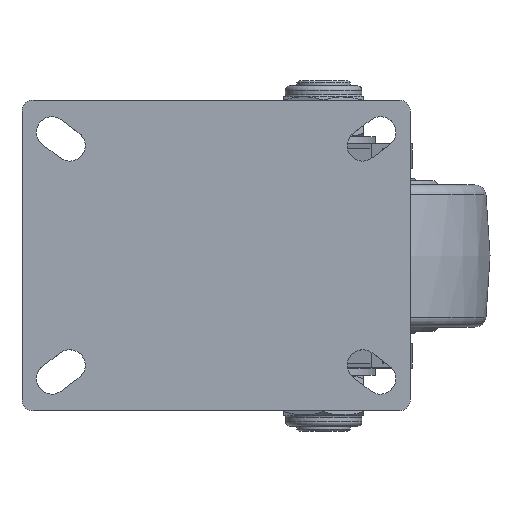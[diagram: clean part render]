
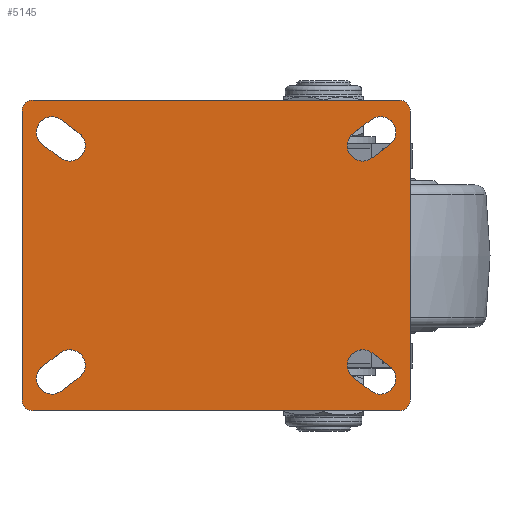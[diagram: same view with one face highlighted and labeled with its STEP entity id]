
A CAD part, top view. The second image highlights one B-rep face of the part: STEP entity #5145.
In plain terms, the highlighted planar face has unit normal (0, 0, 1).
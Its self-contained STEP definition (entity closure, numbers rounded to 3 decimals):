
#3832=CARTESIAN_POINT('',(90.716,258.53,175.));
#3833=VERTEX_POINT('',#3832);
#3834=CARTESIAN_POINT('',(99.116,247.33,175.));
#3835=VERTEX_POINT('',#3834);
#3836=CARTESIAN_POINT('',(94.916,252.93,175.));
#3837=DIRECTION('',(0.0,0.0,1.0));
#3838=DIRECTION('',(1.0,0.0,0.0));
#3839=AXIS2_PLACEMENT_3D('',#3836,#3837,#3838);
#3840=CIRCLE('',#3839,7.);
#3841=EDGE_CURVE('',#3833,#3835,#3840,.T.);
#3885=CARTESIAN_POINT('',(107.116,253.33,175.));
#3886=VERTEX_POINT('',#3885);
#3893=CARTESIAN_POINT('',(98.716,264.53,175.));
#3894=VERTEX_POINT('',#3893);
#3895=CARTESIAN_POINT('',(102.916,258.93,175.));
#3896=DIRECTION('',(0.0,0.0,1.0));
#3897=DIRECTION('',(1.0,0.0,0.0));
#3898=AXIS2_PLACEMENT_3D('',#3895,#3896,#3897);
#3899=CIRCLE('',#3898,7.);
#3900=EDGE_CURVE('',#3886,#3894,#3899,.T.);
#3927=CARTESIAN_POINT('',(98.716,142.33,175.));
#3928=VERTEX_POINT('',#3927);
#3935=CARTESIAN_POINT('',(107.116,153.53,175.));
#3936=VERTEX_POINT('',#3935);
#3937=CARTESIAN_POINT('',(102.916,147.93,175.));
#3938=DIRECTION('',(0.0,0.0,1.0));
#3939=DIRECTION('',(1.0,0.0,0.0));
#3940=AXIS2_PLACEMENT_3D('',#3937,#3938,#3939);
#3941=CIRCLE('',#3940,7.);
#3942=EDGE_CURVE('',#3928,#3936,#3941,.T.);
#3958=CARTESIAN_POINT('',(99.116,159.53,175.));
#3959=VERTEX_POINT('',#3958);
#3960=CARTESIAN_POINT('',(90.716,148.33,175.));
#3961=VERTEX_POINT('',#3960);
#3962=CARTESIAN_POINT('',(94.916,153.93,175.));
#3963=DIRECTION('',(0.0,0.0,1.0));
#3964=DIRECTION('',(1.0,0.0,0.0));
#3965=AXIS2_PLACEMENT_3D('',#3962,#3963,#3964);
#3966=CIRCLE('',#3965,7.);
#3967=EDGE_CURVE('',#3959,#3961,#3966,.T.);
#4011=CARTESIAN_POINT('',(-32.884,148.33,175.));
#4012=VERTEX_POINT('',#4011);
#4019=CARTESIAN_POINT('',(-41.284,159.53,175.));
#4020=VERTEX_POINT('',#4019);
#4021=CARTESIAN_POINT('',(-37.084,153.93,175.));
#4022=DIRECTION('',(0.0,0.0,1.0));
#4023=DIRECTION('',(1.0,0.0,0.0));
#4024=AXIS2_PLACEMENT_3D('',#4021,#4022,#4023);
#4025=CIRCLE('',#4024,7.);
#4026=EDGE_CURVE('',#4012,#4020,#4025,.T.);
#4042=CARTESIAN_POINT('',(-49.284,153.53,175.));
#4043=VERTEX_POINT('',#4042);
#4044=CARTESIAN_POINT('',(-40.884,142.33,175.));
#4045=VERTEX_POINT('',#4044);
#4046=CARTESIAN_POINT('',(-45.084,147.93,175.));
#4047=DIRECTION('',(0.0,0.0,1.0));
#4048=DIRECTION('',(1.0,0.0,0.0));
#4049=AXIS2_PLACEMENT_3D('',#4046,#4047,#4048);
#4050=CIRCLE('',#4049,7.);
#4051=EDGE_CURVE('',#4043,#4045,#4050,.T.);
#4084=CARTESIAN_POINT('',(-40.884,264.53,175.));
#4085=VERTEX_POINT('',#4084);
#4086=CARTESIAN_POINT('',(-49.284,253.33,175.));
#4087=VERTEX_POINT('',#4086);
#4088=CARTESIAN_POINT('',(-45.084,258.93,175.));
#4089=DIRECTION('',(0.0,0.0,1.0));
#4090=DIRECTION('',(1.0,0.0,0.0));
#4091=AXIS2_PLACEMENT_3D('',#4088,#4089,#4090);
#4092=CIRCLE('',#4091,7.);
#4093=EDGE_CURVE('',#4085,#4087,#4092,.T.);
#4137=CARTESIAN_POINT('',(-41.284,247.33,175.));
#4138=VERTEX_POINT('',#4137);
#4145=CARTESIAN_POINT('',(-32.884,258.53,175.));
#4146=VERTEX_POINT('',#4145);
#4147=CARTESIAN_POINT('',(-37.084,252.93,175.));
#4148=DIRECTION('',(0.0,0.0,1.0));
#4149=DIRECTION('',(1.0,0.0,0.0));
#4150=AXIS2_PLACEMENT_3D('',#4147,#4148,#4149);
#4151=CIRCLE('',#4150,7.);
#4152=EDGE_CURVE('',#4138,#4146,#4151,.T.);
#4204=CARTESIAN_POINT('',(116.416,138.43,175.));
#4205=VERTEX_POINT('',#4204);
#4212=CARTESIAN_POINT('',(111.416,133.43,175.));
#4213=VERTEX_POINT('',#4212);
#4214=CARTESIAN_POINT('',(111.416,138.43,175.));
#4215=DIRECTION('',(0.0,0.0,-1.));
#4216=DIRECTION('',(0.707,-0.707,0.0));
#4217=AXIS2_PLACEMENT_3D('',#4214,#4215,#4216);
#4218=CIRCLE('',#4217,5.);
#4219=EDGE_CURVE('',#4205,#4213,#4218,.T.);
#4246=CARTESIAN_POINT('',(111.416,273.43,175.));
#4247=VERTEX_POINT('',#4246);
#4254=CARTESIAN_POINT('',(116.416,268.43,175.));
#4255=VERTEX_POINT('',#4254);
#4256=CARTESIAN_POINT('',(111.416,268.43,175.));
#4257=DIRECTION('',(0.0,0.0,-1.));
#4258=DIRECTION('',(0.707,0.707,0.0));
#4259=AXIS2_PLACEMENT_3D('',#4256,#4257,#4258);
#4260=CIRCLE('',#4259,5.);
#4261=EDGE_CURVE('',#4247,#4255,#4260,.T.);
#4288=CARTESIAN_POINT('',(-58.584,268.43,175.));
#4289=VERTEX_POINT('',#4288);
#4296=CARTESIAN_POINT('',(-53.584,273.43,175.));
#4297=VERTEX_POINT('',#4296);
#4298=CARTESIAN_POINT('',(-53.584,268.43,175.));
#4299=DIRECTION('',(0.0,0.0,-1.));
#4300=DIRECTION('',(-0.707,0.707,0.0));
#4301=AXIS2_PLACEMENT_3D('',#4298,#4299,#4300);
#4302=CIRCLE('',#4301,5.);
#4303=EDGE_CURVE('',#4289,#4297,#4302,.T.);
#4330=CARTESIAN_POINT('',(-53.584,133.43,175.));
#4331=VERTEX_POINT('',#4330);
#4338=CARTESIAN_POINT('',(-58.584,138.43,175.));
#4339=VERTEX_POINT('',#4338);
#4340=CARTESIAN_POINT('',(-53.584,138.43,175.));
#4341=DIRECTION('',(0.0,0.0,-1.));
#4342=DIRECTION('',(-0.707,-0.707,0.0));
#4343=AXIS2_PLACEMENT_3D('',#4340,#4341,#4342);
#4344=CIRCLE('',#4343,5.);
#4345=EDGE_CURVE('',#4331,#4339,#4344,.T.);
#4762=CARTESIAN_POINT('',(-58.584,138.43,175.));
#4763=DIRECTION('',(0.0,1.0,0.0));
#4764=VECTOR('',#4763,130.);
#4765=LINE('',#4762,#4764);
#4766=EDGE_CURVE('',#4339,#4289,#4765,.T.);
#4861=CARTESIAN_POINT('',(116.416,268.43,175.));
#4862=DIRECTION('',(0.0,-1.0,0.0));
#4863=VECTOR('',#4862,130.0);
#4864=LINE('',#4861,#4863);
#4865=EDGE_CURVE('',#4255,#4205,#4864,.T.);
#4940=CARTESIAN_POINT('',(-53.584,273.43,175.));
#4941=DIRECTION('',(1.0,0.0,0.0));
#4942=VECTOR('',#4941,165.0);
#4943=LINE('',#4940,#4942);
#4944=EDGE_CURVE('',#4297,#4247,#4943,.T.);
#4961=CARTESIAN_POINT('',(111.416,133.43,175.));
#4962=DIRECTION('',(-1.0,0.0,0.0));
#4963=VECTOR('',#4962,165.0);
#4964=LINE('',#4961,#4963);
#4965=EDGE_CURVE('',#4213,#4331,#4964,.T.);
#4975=CARTESIAN_POINT('',(-32.884,258.53,175.));
#4976=DIRECTION('',(-0.8,0.6,0.0));
#4977=VECTOR('',#4976,10.0);
#4978=LINE('',#4975,#4977);
#4979=EDGE_CURVE('',#4146,#4085,#4978,.T.);
#4992=CARTESIAN_POINT('',(-49.284,253.33,175.));
#4993=DIRECTION('',(0.8,-0.6,0.0));
#4994=VECTOR('',#4993,10.);
#4995=LINE('',#4992,#4994);
#4996=EDGE_CURVE('',#4087,#4138,#4995,.T.);
#5009=CARTESIAN_POINT('',(-40.884,142.33,175.));
#5010=DIRECTION('',(0.8,0.6,0.0));
#5011=VECTOR('',#5010,10.0);
#5012=LINE('',#5009,#5011);
#5013=EDGE_CURVE('',#4045,#4012,#5012,.T.);
#5026=CARTESIAN_POINT('',(-41.284,159.53,175.));
#5027=DIRECTION('',(-0.8,-0.6,0.0));
#5028=VECTOR('',#5027,10.);
#5029=LINE('',#5026,#5028);
#5030=EDGE_CURVE('',#4020,#4043,#5029,.T.);
#5043=CARTESIAN_POINT('',(90.716,148.33,175.));
#5044=DIRECTION('',(0.8,-0.6,0.0));
#5045=VECTOR('',#5044,10.0);
#5046=LINE('',#5043,#5045);
#5047=EDGE_CURVE('',#3961,#3928,#5046,.T.);
#5060=CARTESIAN_POINT('',(107.116,153.53,175.));
#5061=DIRECTION('',(-0.8,0.6,0.0));
#5062=VECTOR('',#5061,10.);
#5063=LINE('',#5060,#5062);
#5064=EDGE_CURVE('',#3936,#3959,#5063,.T.);
#5077=CARTESIAN_POINT('',(98.716,264.53,175.));
#5078=DIRECTION('',(-0.8,-0.6,0.0));
#5079=VECTOR('',#5078,10.0);
#5080=LINE('',#5077,#5079);
#5081=EDGE_CURVE('',#3894,#3833,#5080,.T.);
#5094=CARTESIAN_POINT('',(99.116,247.33,175.));
#5095=DIRECTION('',(0.8,0.6,0.0));
#5096=VECTOR('',#5095,10.);
#5097=LINE('',#5094,#5096);
#5098=EDGE_CURVE('',#3835,#3886,#5097,.T.);
#5106=CARTESIAN_POINT('',(-41.284,247.33,175.));
#5107=DIRECTION('',(0.0,0.0,1.0));
#5108=DIRECTION('',(1.0,0.0,0.0));
#5109=AXIS2_PLACEMENT_3D('',#5106,#5107,#5108);
#5110=PLANE('',#5109);
#5111=ORIENTED_EDGE('',*,*,#4345,.F.);
#5112=ORIENTED_EDGE('',*,*,#4965,.F.);
#5113=ORIENTED_EDGE('',*,*,#4219,.F.);
#5114=ORIENTED_EDGE('',*,*,#4865,.F.);
#5115=ORIENTED_EDGE('',*,*,#4261,.F.);
#5116=ORIENTED_EDGE('',*,*,#4944,.F.);
#5117=ORIENTED_EDGE('',*,*,#4303,.F.);
#5118=ORIENTED_EDGE('',*,*,#4766,.F.);
#5119=EDGE_LOOP('',(#5111,#5112,#5113,#5114,#5115,#5116,#5117,#5118));
#5120=FACE_OUTER_BOUND('',#5119,.T.);
#5121=ORIENTED_EDGE('',*,*,#3900,.F.);
#5122=ORIENTED_EDGE('',*,*,#5098,.F.);
#5123=ORIENTED_EDGE('',*,*,#3841,.F.);
#5124=ORIENTED_EDGE('',*,*,#5081,.F.);
#5125=EDGE_LOOP('',(#5121,#5122,#5123,#5124));
#5126=FACE_BOUND('',#5125,.T.);
#5127=ORIENTED_EDGE('',*,*,#3967,.F.);
#5128=ORIENTED_EDGE('',*,*,#5064,.F.);
#5129=ORIENTED_EDGE('',*,*,#3942,.F.);
#5130=ORIENTED_EDGE('',*,*,#5047,.F.);
#5131=EDGE_LOOP('',(#5127,#5128,#5129,#5130));
#5132=FACE_BOUND('',#5131,.T.);
#5133=ORIENTED_EDGE('',*,*,#4051,.F.);
#5134=ORIENTED_EDGE('',*,*,#5030,.F.);
#5135=ORIENTED_EDGE('',*,*,#4026,.F.);
#5136=ORIENTED_EDGE('',*,*,#5013,.F.);
#5137=EDGE_LOOP('',(#5133,#5134,#5135,#5136));
#5138=FACE_BOUND('',#5137,.T.);
#5139=ORIENTED_EDGE('',*,*,#4152,.F.);
#5140=ORIENTED_EDGE('',*,*,#4996,.F.);
#5141=ORIENTED_EDGE('',*,*,#4093,.F.);
#5142=ORIENTED_EDGE('',*,*,#4979,.F.);
#5143=EDGE_LOOP('',(#5139,#5140,#5141,#5142));
#5144=FACE_BOUND('',#5143,.T.);
#5145=ADVANCED_FACE('',(#5120,#5126,#5132,#5138,#5144),#5110,.T.);
